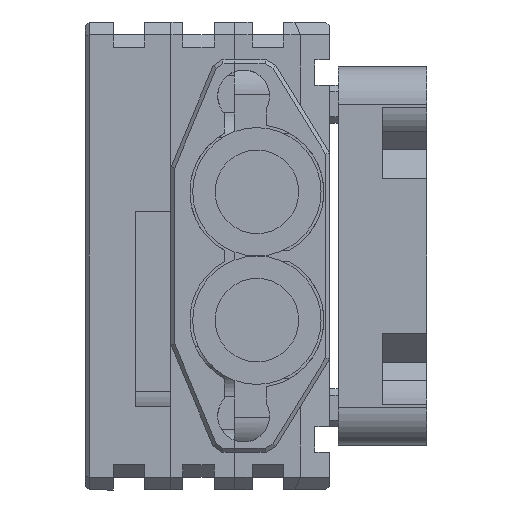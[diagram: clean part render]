
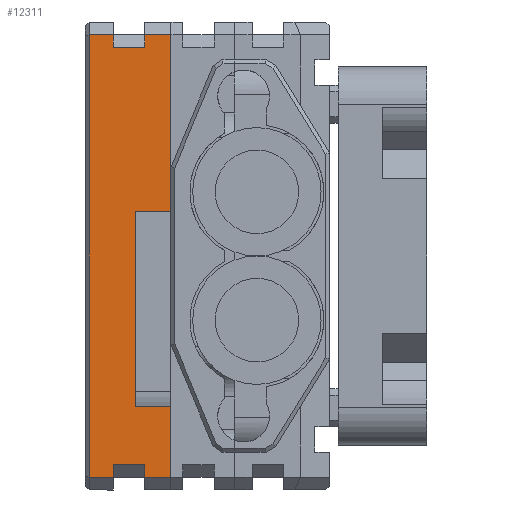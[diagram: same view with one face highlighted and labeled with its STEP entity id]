
A CAD part, left-side view. The second image highlights one B-rep face of the part: STEP entity #12311.
In plain terms, the highlighted planar face has unit normal (-1, 0, 0).
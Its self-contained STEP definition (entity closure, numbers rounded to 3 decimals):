
#505=PLANE('',#13141);
#1079=FACE_OUTER_BOUND('',#1747,.T.);
#1747=EDGE_LOOP('',(#10141,#10142,#10143,#10144,#10145,#10146,#10147,#10148,
#10149,#10150,#10151,#10152,#10153,#10154,#10155,#10156));
#3196=LINE('',#18904,#4681);
#3197=LINE('',#18907,#4682);
#3198=LINE('',#18909,#4683);
#3199=LINE('',#18911,#4684);
#3200=LINE('',#18913,#4685);
#3201=LINE('',#18915,#4686);
#3202=LINE('',#18917,#4687);
#3203=LINE('',#18919,#4688);
#3204=LINE('',#18921,#4689);
#3205=LINE('',#18923,#4690);
#3206=LINE('',#18925,#4691);
#3207=LINE('',#18927,#4692);
#3208=LINE('',#18929,#4693);
#3209=LINE('',#18931,#4694);
#3210=LINE('',#18933,#4695);
#3211=LINE('',#18934,#4696);
#4681=VECTOR('',#15368,10.);
#4682=VECTOR('',#15371,10.);
#4683=VECTOR('',#15372,10.);
#4684=VECTOR('',#15373,10.);
#4685=VECTOR('',#15374,10.);
#4686=VECTOR('',#15375,10.);
#4687=VECTOR('',#15376,10.);
#4688=VECTOR('',#15377,10.);
#4689=VECTOR('',#15378,10.);
#4690=VECTOR('',#15379,10.);
#4691=VECTOR('',#15380,10.);
#4692=VECTOR('',#15381,10.);
#4693=VECTOR('',#15382,10.);
#4694=VECTOR('',#15383,10.);
#4695=VECTOR('',#15384,10.);
#4696=VECTOR('',#15385,10.);
#5963=VERTEX_POINT('',#18900);
#5964=VERTEX_POINT('',#18902);
#5965=VERTEX_POINT('',#18906);
#5966=VERTEX_POINT('',#18908);
#5967=VERTEX_POINT('',#18910);
#5968=VERTEX_POINT('',#18912);
#5969=VERTEX_POINT('',#18914);
#5970=VERTEX_POINT('',#18916);
#5971=VERTEX_POINT('',#18918);
#5972=VERTEX_POINT('',#18920);
#5973=VERTEX_POINT('',#18922);
#5974=VERTEX_POINT('',#18924);
#5975=VERTEX_POINT('',#18926);
#5976=VERTEX_POINT('',#18928);
#5977=VERTEX_POINT('',#18930);
#5978=VERTEX_POINT('',#18932);
#7463=EDGE_CURVE('',#5964,#5963,#3196,.T.);
#7464=EDGE_CURVE('',#5963,#5965,#3197,.T.);
#7465=EDGE_CURVE('',#5966,#5964,#3198,.T.);
#7466=EDGE_CURVE('',#5967,#5966,#3199,.T.);
#7467=EDGE_CURVE('',#5967,#5968,#3200,.T.);
#7468=EDGE_CURVE('',#5968,#5969,#3201,.T.);
#7469=EDGE_CURVE('',#5969,#5970,#3202,.T.);
#7470=EDGE_CURVE('',#5970,#5971,#3203,.T.);
#7471=EDGE_CURVE('',#5972,#5971,#3204,.T.);
#7472=EDGE_CURVE('',#5973,#5972,#3205,.T.);
#7473=EDGE_CURVE('',#5974,#5973,#3206,.T.);
#7474=EDGE_CURVE('',#5975,#5974,#3207,.T.);
#7475=EDGE_CURVE('',#5976,#5975,#3208,.T.);
#7476=EDGE_CURVE('',#5977,#5976,#3209,.T.);
#7477=EDGE_CURVE('',#5978,#5977,#3210,.T.);
#7478=EDGE_CURVE('',#5965,#5978,#3211,.T.);
#10141=ORIENTED_EDGE('',*,*,#7464,.F.);
#10142=ORIENTED_EDGE('',*,*,#7463,.F.);
#10143=ORIENTED_EDGE('',*,*,#7465,.F.);
#10144=ORIENTED_EDGE('',*,*,#7466,.F.);
#10145=ORIENTED_EDGE('',*,*,#7467,.T.);
#10146=ORIENTED_EDGE('',*,*,#7468,.T.);
#10147=ORIENTED_EDGE('',*,*,#7469,.T.);
#10148=ORIENTED_EDGE('',*,*,#7470,.T.);
#10149=ORIENTED_EDGE('',*,*,#7471,.F.);
#10150=ORIENTED_EDGE('',*,*,#7472,.F.);
#10151=ORIENTED_EDGE('',*,*,#7473,.F.);
#10152=ORIENTED_EDGE('',*,*,#7474,.F.);
#10153=ORIENTED_EDGE('',*,*,#7475,.F.);
#10154=ORIENTED_EDGE('',*,*,#7476,.F.);
#10155=ORIENTED_EDGE('',*,*,#7477,.F.);
#10156=ORIENTED_EDGE('',*,*,#7478,.F.);
#12311=ADVANCED_FACE('',(#1079),#505,.T.);
#13141=AXIS2_PLACEMENT_3D('',#18905,#15369,#15370);
#15368=DIRECTION('',(0.,1.,0.));
#15369=DIRECTION('center_axis',(-1.,0.,0.));
#15370=DIRECTION('ref_axis',(0.,0.,1.));
#15371=DIRECTION('',(0.,0.,-1.));
#15372=DIRECTION('',(0.,0.,1.));
#15373=DIRECTION('',(0.,1.,0.));
#15374=DIRECTION('',(0.,0.,1.));
#15375=DIRECTION('',(0.,1.,0.));
#15376=DIRECTION('',(0.,0.,1.));
#15377=DIRECTION('',(0.,-1.,0.));
#15378=DIRECTION('',(0.,0.,-1.));
#15379=DIRECTION('',(0.,-1.,0.));
#15380=DIRECTION('',(0.,0.,1.));
#15381=DIRECTION('',(0.,-1.,0.));
#15382=DIRECTION('',(0.,0.,-1.));
#15383=DIRECTION('',(0.,-1.,0.));
#15384=DIRECTION('',(0.,0.,1.));
#15385=DIRECTION('',(0.,1.,0.));
#18900=CARTESIAN_POINT('',(-8.752,5.07,-32.));
#18902=CARTESIAN_POINT('',(-8.752,2.57,-32.));
#18904=CARTESIAN_POINT('',(-8.752,-0.808,-32.));
#18905=CARTESIAN_POINT('Origin',(-8.752,-8.885,-37.25));
#18906=CARTESIAN_POINT('',(-8.752,5.07,-33.));
#18907=CARTESIAN_POINT('',(-8.752,5.07,-35.625));
#18908=CARTESIAN_POINT('',(-8.752,2.57,-33.));
#18909=CARTESIAN_POINT('',(-8.752,2.57,-35.625));
#18910=CARTESIAN_POINT('',(-8.752,0.5,-33.));
#18911=CARTESIAN_POINT('',(-8.752,-0.808,-33.));
#18912=CARTESIAN_POINT('',(-8.753,0.5,-27.375));
#18913=CARTESIAN_POINT('',(-8.752,0.5,-26.375));
#18914=CARTESIAN_POINT('',(-8.753,3.32,-27.375));
#18915=CARTESIAN_POINT('',(-8.752,-2.783,-27.375));
#18916=CARTESIAN_POINT('',(-8.752,3.32,-11.975));
#18917=CARTESIAN_POINT('',(-8.752,3.32,-24.612));
#18918=CARTESIAN_POINT('',(-8.752,0.5,-11.975));
#18919=CARTESIAN_POINT('',(-8.752,-4.443,-11.975));
#18920=CARTESIAN_POINT('',(-8.752,0.5,2.));
#18921=CARTESIAN_POINT('',(-8.752,0.5,3.));
#18922=CARTESIAN_POINT('',(-8.753,2.57,2.));
#18923=CARTESIAN_POINT('',(-8.752,-0.808,2.));
#18924=CARTESIAN_POINT('',(-8.752,2.57,1.));
#18925=CARTESIAN_POINT('',(-8.752,2.57,-17.125));
#18926=CARTESIAN_POINT('',(-8.752,5.07,1.));
#18927=CARTESIAN_POINT('',(-8.752,-0.808,1.));
#18928=CARTESIAN_POINT('',(-8.752,5.07,2.));
#18929=CARTESIAN_POINT('',(-8.752,5.07,-17.125));
#18930=CARTESIAN_POINT('',(-8.752,6.97,2.));
#18931=CARTESIAN_POINT('',(-8.752,-0.808,2.));
#18932=CARTESIAN_POINT('',(-8.752,6.97,-33.));
#18933=CARTESIAN_POINT('',(-8.752,6.97,-26.375));
#18934=CARTESIAN_POINT('',(-8.752,-0.808,-33.));
